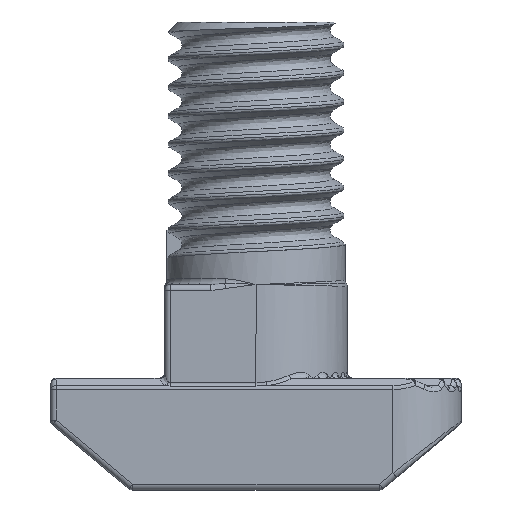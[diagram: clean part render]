
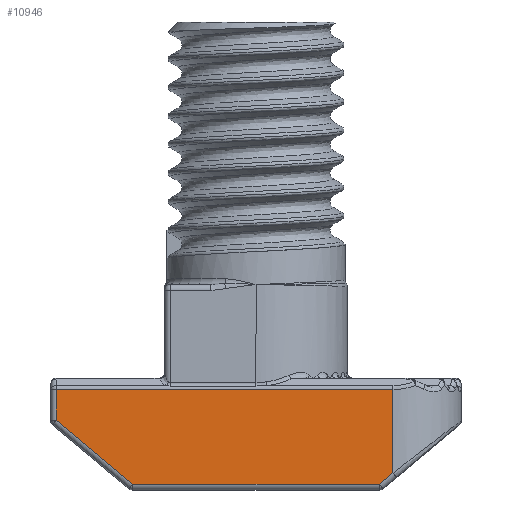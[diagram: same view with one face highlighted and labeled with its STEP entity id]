
A CAD part, front view. The second image highlights one B-rep face of the part: STEP entity #10946.
In plain terms, the highlighted planar face has unit normal (0, -1, 0).
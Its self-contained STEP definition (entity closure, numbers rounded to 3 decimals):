
#34 = CARTESIAN_POINT ( 'NONE',  ( -8.75, -3.353, 4.5 ) ) ;
#175 = EDGE_CURVE ( 'NONE', #10976, #12072, #15468, .T. ) ;
#275 = VECTOR ( 'NONE', #7723, 1000. ) ;
#339 = LINE ( 'NONE', #15035, #10990 ) ;
#400 = CARTESIAN_POINT ( 'NONE',  ( -5.339, -3.353, 0.192 ) ) ;
#655 = VECTOR ( 'NONE', #11674, 1000. ) ;
#880 = CARTESIAN_POINT ( 'NONE',  ( -9., -3.353, 4.5 ) ) ;
#1075 = LINE ( 'NONE', #4317, #655 ) ;
#1800 = CARTESIAN_POINT ( 'NONE',  ( 5.409, -3.353, 0.25 ) ) ;
#2014 = VERTEX_POINT ( 'NONE', #10868 ) ;
#2821 = EDGE_CURVE ( 'NONE', #12072, #15741, #5155, .T. ) ;
#2915 = EDGE_CURVE ( 'NONE', #5255, #14290, #1075, .T. ) ;
#3346 = EDGE_LOOP ( 'NONE', ( #10498, #12828, #14996, #4166, #7633, #6803 ) ) ;
#3385 = DIRECTION ( 'NONE',  ( -1., 0., 0. ) ) ;
#4166 = ORIENTED_EDGE ( 'NONE', *, *, #2821, .T. ) ;
#4317 = CARTESIAN_POINT ( 'NONE',  ( -9., -3.353, 0.25 ) ) ;
#4691 = CARTESIAN_POINT ( 'NONE',  ( 6., -3.353, 0.746 ) ) ;
#4905 = CARTESIAN_POINT ( 'NONE',  ( -8.75, -3.353, 4.405 ) ) ;
#5155 = LINE ( 'NONE', #5247, #275 ) ;
#5160 = VECTOR ( 'NONE', #9948, 1000. ) ;
#5247 = CARTESIAN_POINT ( 'NONE',  ( -9., -3.353, 4.405 ) ) ;
#5255 = VERTEX_POINT ( 'NONE', #13507 ) ;
#6457 = VECTOR ( 'NONE', #10081, 1000. ) ;
#6803 = ORIENTED_EDGE ( 'NONE', *, *, #9918, .T. ) ;
#7633 = ORIENTED_EDGE ( 'NONE', *, *, #15828, .T. ) ;
#7721 = DIRECTION ( 'NONE',  ( 0.766, 0., 0.643 ) ) ;
#7723 = DIRECTION ( 'NONE',  ( -1., 0., 0. ) ) ;
#8056 = FACE_OUTER_BOUND ( 'NONE', #3346, .T. ) ;
#8439 = LINE ( 'NONE', #34, #5160 ) ;
#9538 = PLANE ( 'NONE',  #13001 ) ;
#9918 = EDGE_CURVE ( 'NONE', #2014, #5255, #12458, .T. ) ;
#9948 = DIRECTION ( 'NONE',  ( 0., 0., -1. ) ) ;
#10081 = DIRECTION ( 'NONE',  ( 0., 0., 1. ) ) ;
#10498 = ORIENTED_EDGE ( 'NONE', *, *, #2915, .T. ) ;
#10772 = DIRECTION ( 'NONE',  ( 0., 1., 0. ) ) ;
#10868 = CARTESIAN_POINT ( 'NONE',  ( -8.75, -3.353, 3.053 ) ) ;
#10946 = ADVANCED_FACE ( 'NONE', ( #8056 ), #9538, .F. ) ;
#10976 = VERTEX_POINT ( 'NONE', #4691 ) ;
#10990 = VECTOR ( 'NONE', #7721, 1000. ) ;
#11674 = DIRECTION ( 'NONE',  ( 1., 0., 0. ) ) ;
#12072 = VERTEX_POINT ( 'NONE', #14212 ) ;
#12458 = LINE ( 'NONE', #400, #15723 ) ;
#12828 = ORIENTED_EDGE ( 'NONE', *, *, #13502, .T. ) ;
#13001 = AXIS2_PLACEMENT_3D ( 'NONE', #880, #10772, #3385 ) ;
#13502 = EDGE_CURVE ( 'NONE', #14290, #10976, #339, .T. ) ;
#13507 = CARTESIAN_POINT ( 'NONE',  ( -5.409, -3.353, 0.25 ) ) ;
#13888 = DIRECTION ( 'NONE',  ( 0.766, 0., -0.643 ) ) ;
#14212 = CARTESIAN_POINT ( 'NONE',  ( 6., -3.353, 4.405 ) ) ;
#14290 = VERTEX_POINT ( 'NONE', #1800 ) ;
#14996 = ORIENTED_EDGE ( 'NONE', *, *, #175, .T. ) ;
#15035 = CARTESIAN_POINT ( 'NONE',  ( 5.839, -3.353, 0.611 ) ) ;
#15468 = LINE ( 'NONE', #15825, #6457 ) ;
#15723 = VECTOR ( 'NONE', #13888, 1000. ) ;
#15741 = VERTEX_POINT ( 'NONE', #4905 ) ;
#15825 = CARTESIAN_POINT ( 'NONE',  ( 6., -3.353, 4.5 ) ) ;
#15828 = EDGE_CURVE ( 'NONE', #15741, #2014, #8439, .T. ) ;
